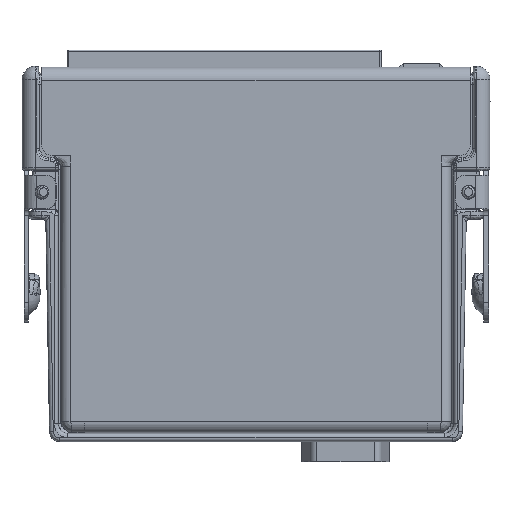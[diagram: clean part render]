
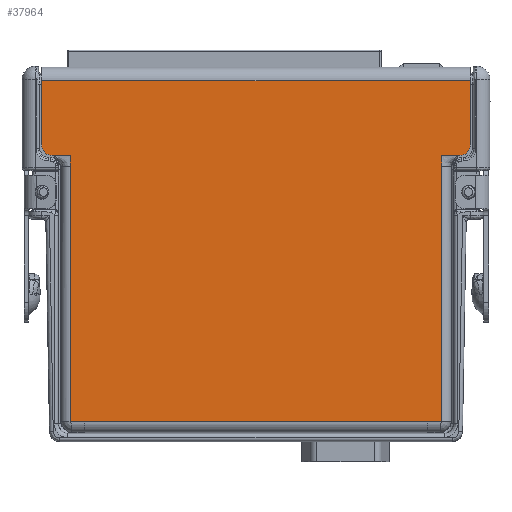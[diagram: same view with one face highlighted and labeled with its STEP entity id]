
A CAD part, left-side view. The second image highlights one B-rep face of the part: STEP entity #37964.
In plain terms, the highlighted planar face has unit normal (-1, 0, 0).
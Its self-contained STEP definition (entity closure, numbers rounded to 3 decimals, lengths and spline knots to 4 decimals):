
#3978=DIRECTION('',(0.,-1.,0.));
#3979=VECTOR('',#3978,2.543);
#3980=CARTESIAN_POINT('',(-0.4475,1.2715,0.146));
#3981=LINE('',#3980,#3979);
#3990=DIRECTION('',(0.,0.,-1.));
#3991=VECTOR('',#3990,0.476);
#3992=CARTESIAN_POINT('',(-0.4475,1.5895,2.676));
#3993=LINE('',#3992,#3991);
#3994=DIRECTION('',(0.,0.,1.));
#3995=VECTOR('',#3994,0.476);
#3996=CARTESIAN_POINT('',(-0.4475,-1.5895,2.2));
#3997=LINE('',#3996,#3995);
#3998=DIRECTION('',(0.,0.,1.));
#3999=VECTOR('',#3998,0.079);
#4000=CARTESIAN_POINT('',(-0.4475,-1.3765,2.041));
#4001=LINE('',#4000,#3999);
#4002=DIRECTION('',(0.,-1.,0.));
#4003=VECTOR('',#4002,0.105);
#4004=CARTESIAN_POINT('',(-0.4475,-1.2715,0.146));
#4005=LINE('',#4004,#4003);
#4006=DIRECTION('',(0.,-1.,0.));
#4007=VECTOR('',#4006,0.105);
#4008=CARTESIAN_POINT('',(-0.4475,1.3765,0.146));
#4009=LINE('',#4008,#4007);
#4010=DIRECTION('',(0.,0.,1.));
#4011=VECTOR('',#4010,0.079);
#4012=CARTESIAN_POINT('',(-0.4475,1.3765,2.041));
#4013=LINE('',#4012,#4011);
#4027=CARTESIAN_POINT('',(-0.4475,1.5095,2.2));
#4028=DIRECTION('',(-1.,0.,0.));
#4029=DIRECTION('',(0.,1.,0.));
#4030=AXIS2_PLACEMENT_3D('',#4027,#4028,#4029);
#4032=DIRECTION('',(0.,-1.,0.));
#4033=VECTOR('',#4032,0.133);
#4034=CARTESIAN_POINT('',(-0.4475,1.5095,2.12));
#4035=LINE('',#4034,#4033);
#4052=DIRECTION('',(0.,0.,1.));
#4053=VECTOR('',#4052,1.895);
#4054=CARTESIAN_POINT('',(-0.4475,1.3765,0.146));
#4055=LINE('',#4054,#4053);
#4275=DIRECTION('',(0.,-1.,0.));
#4276=VECTOR('',#4275,3.179);
#4277=CARTESIAN_POINT('',(-0.4475,1.5895,2.676));
#4278=LINE('',#4277,#4276);
#26199=CARTESIAN_POINT('',(-0.4475,-1.5095,2.2));
#26200=DIRECTION('',(-1.,0.,0.));
#26201=DIRECTION('',(0.,0.,-1.));
#26202=AXIS2_PLACEMENT_3D('',#26199,#26200,#26201);
#26212=DIRECTION('',(0.,-1.,0.));
#26213=VECTOR('',#26212,0.133);
#26214=CARTESIAN_POINT('',(-0.4475,-1.3765,2.12));
#26215=LINE('',#26214,#26213);
#26247=DIRECTION('',(0.,0.,1.));
#26248=VECTOR('',#26247,1.895);
#26249=CARTESIAN_POINT('',(-0.4475,-1.3765,0.146));
#26250=LINE('',#26249,#26248);
#32965=CARTESIAN_POINT('',(-0.4475,-1.5895,2.676));
#32966=VERTEX_POINT('',#32965);
#32967=CARTESIAN_POINT('',(-0.4475,1.5895,2.676));
#32968=VERTEX_POINT('',#32967);
#32989=CARTESIAN_POINT('',(-0.4475,1.2715,0.146));
#32990=CARTESIAN_POINT('',(-0.4475,-1.2715,0.146));
#32991=VERTEX_POINT('',#32989);
#32992=VERTEX_POINT('',#32990);
#33001=CARTESIAN_POINT('',(-0.4475,-1.3765,0.146));
#33002=VERTEX_POINT('',#33001);
#33013=CARTESIAN_POINT('',(-0.4475,1.3765,0.146));
#33014=VERTEX_POINT('',#33013);
#33062=CARTESIAN_POINT('',(-0.4475,1.5095,2.12));
#33064=VERTEX_POINT('',#33062);
#33067=CARTESIAN_POINT('',(-0.4475,1.5895,2.2));
#33068=VERTEX_POINT('',#33067);
#33070=CARTESIAN_POINT('',(-0.4475,-1.5895,2.2));
#33072=VERTEX_POINT('',#33070);
#33075=CARTESIAN_POINT('',(-0.4475,-1.5095,2.12));
#33076=VERTEX_POINT('',#33075);
#33093=CARTESIAN_POINT('',(-0.4475,-1.3765,2.041));
#33094=VERTEX_POINT('',#33093);
#33097=CARTESIAN_POINT('',(-0.4475,-1.3765,2.12));
#33098=VERTEX_POINT('',#33097);
#33105=CARTESIAN_POINT('',(-0.4475,1.3765,2.041));
#33106=CARTESIAN_POINT('',(-0.4475,1.3765,2.12));
#33107=VERTEX_POINT('',#33105);
#33108=VERTEX_POINT('',#33106);
#37931=CARTESIAN_POINT('',(-0.4475,0.,1.421));
#37932=DIRECTION('',(-1.,0.,0.));
#37933=DIRECTION('',(0.,1.,0.));
#37934=AXIS2_PLACEMENT_3D('',#37931,#37932,#37933);
#37935=PLANE('',#37934);
#37937=ORIENTED_EDGE('',*,*,#37936,.F.);
#37939=ORIENTED_EDGE('',*,*,#37938,.F.);
#37941=ORIENTED_EDGE('',*,*,#37940,.T.);
#37943=ORIENTED_EDGE('',*,*,#37942,.F.);
#37945=ORIENTED_EDGE('',*,*,#37944,.F.);
#37947=ORIENTED_EDGE('',*,*,#37946,.F.);
#37949=ORIENTED_EDGE('',*,*,#37948,.F.);
#37951=ORIENTED_EDGE('',*,*,#37950,.F.);
#37952=ORIENTED_EDGE('',*,*,#37921,.F.);
#37953=ORIENTED_EDGE('',*,*,#37897,.F.);
#37955=ORIENTED_EDGE('',*,*,#37954,.F.);
#37957=ORIENTED_EDGE('',*,*,#37956,.T.);
#37959=ORIENTED_EDGE('',*,*,#37958,.T.);
#37961=ORIENTED_EDGE('',*,*,#37960,.F.);
#37962=EDGE_LOOP('',(#37937,#37939,#37941,#37943,#37945,#37947,#37949,#37951,
#37952,#37953,#37955,#37957,#37959,#37961));
#37963=FACE_OUTER_BOUND('',#37962,.F.);
#37964=ADVANCED_FACE('',(#37963),#37935,.T.);
#4031=CIRCLE('',#4030,0.08);
#26203=CIRCLE('',#26202,0.08);
#37897=EDGE_CURVE('',#32991,#32992,#3981,.T.);
#37921=EDGE_CURVE('',#32992,#33002,#4005,.T.);
#37936=EDGE_CURVE('',#33068,#33064,#4031,.T.);
#37938=EDGE_CURVE('',#32968,#33068,#3993,.T.);
#37940=EDGE_CURVE('',#32968,#32966,#4278,.T.);
#37942=EDGE_CURVE('',#33072,#32966,#3997,.T.);
#37944=EDGE_CURVE('',#33076,#33072,#26203,.T.);
#37946=EDGE_CURVE('',#33098,#33076,#26215,.T.);
#37948=EDGE_CURVE('',#33094,#33098,#4001,.T.);
#37950=EDGE_CURVE('',#33002,#33094,#26250,.T.);
#37954=EDGE_CURVE('',#33014,#32991,#4009,.T.);
#37956=EDGE_CURVE('',#33014,#33107,#4055,.T.);
#37958=EDGE_CURVE('',#33107,#33108,#4013,.T.);
#37960=EDGE_CURVE('',#33064,#33108,#4035,.T.);
